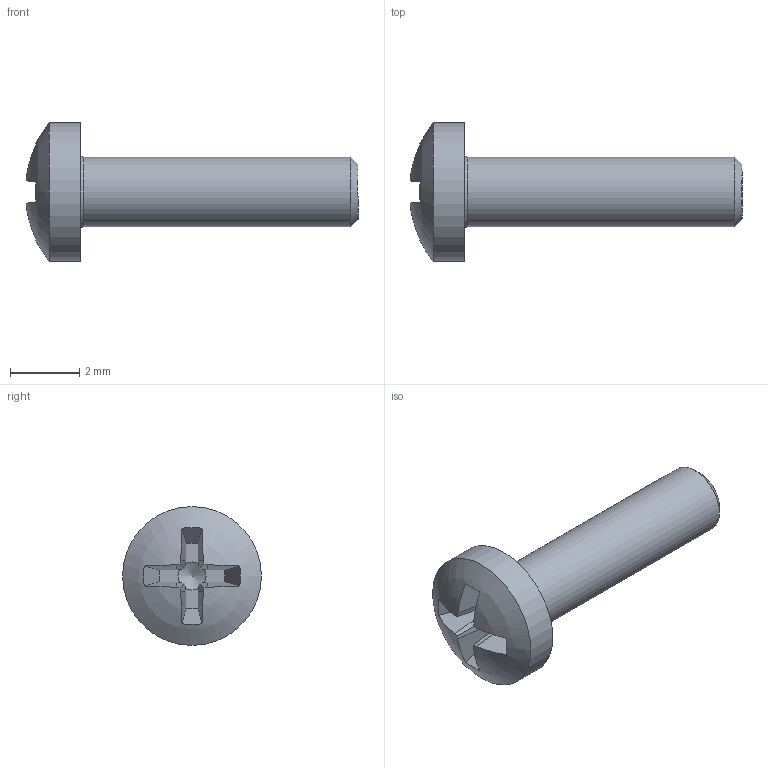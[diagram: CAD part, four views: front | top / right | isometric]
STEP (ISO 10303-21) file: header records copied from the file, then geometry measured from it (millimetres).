
FILE_DESCRIPTION(/* description */ ('STEP AP242 Edition 2','CAx-IF Rec.Pracs.---Representation and Presentation of Product Manufacturing Information (PMI)---4.0---2014-10-13','CAx-IF Rec.Pracs.---3D Tessellated Geometry---0.4---2014-09-14','2;1','CAx-IF Rec.Pracs.---User Defined Attributes---1.5---2016-08-15'),/* implementation_level */ '2;1');
FILE_NAME(/* name */ 'Final Build - M2x8 (3)',/* time_stamp */ '2026-08-31T23:26:13Z',/* author */ (''),/* organization */ (''),/* preprocessor_version */ 'ST-DEVELOPER v20',/* originating_system */ 'ONSHAPE BY PTC INC, 1.220',/* authorisation */ ' ');
FILE_SCHEMA (('AP242_MANAGED_MODEL_BASED_3D_ENGINEERING_MIM_LF { 1 0 10303 442 3 1 4 }'));
Length unit declared in the file: metre
Products named in the file (1): M2x8
Bounding box: 9.56 x 4 x 4 mm (x, y, z)
Volume: 38.5 mm3; surface area: 95.1 mm2
Topology: 1 solids, 1 shells, 32 faces, 88 edges, 58 vertices
Faces by surface type: plane 26, cylinder 2, cone 2, sphere 1, torus 1
Full cylindrical faces by diameter (mm): 2 x1, 4 x1
Entity records: 994 total; most frequent: CARTESIAN_POINT 190, DIRECTION 166, ORIENTED_EDGE 156, EDGE_CURVE 78, AXIS2_PLACEMENT_3D 63, VERTEX_POINT 55, LINE 40, VECTOR 40
